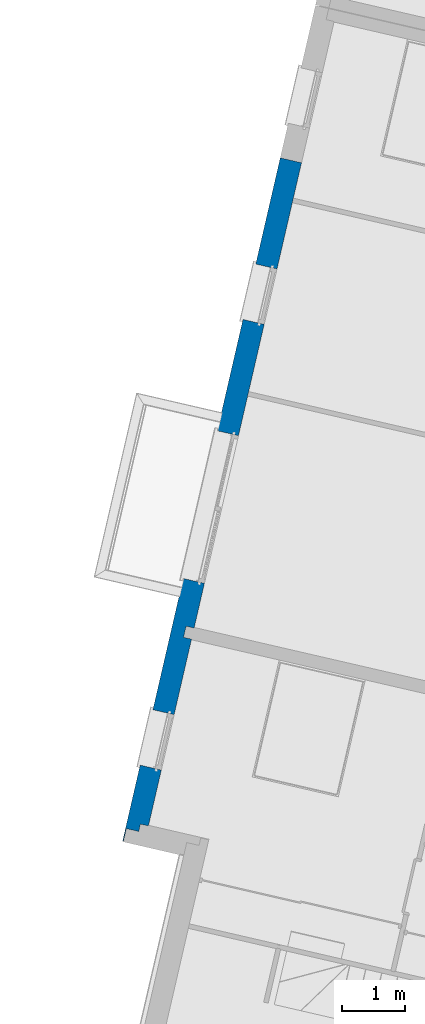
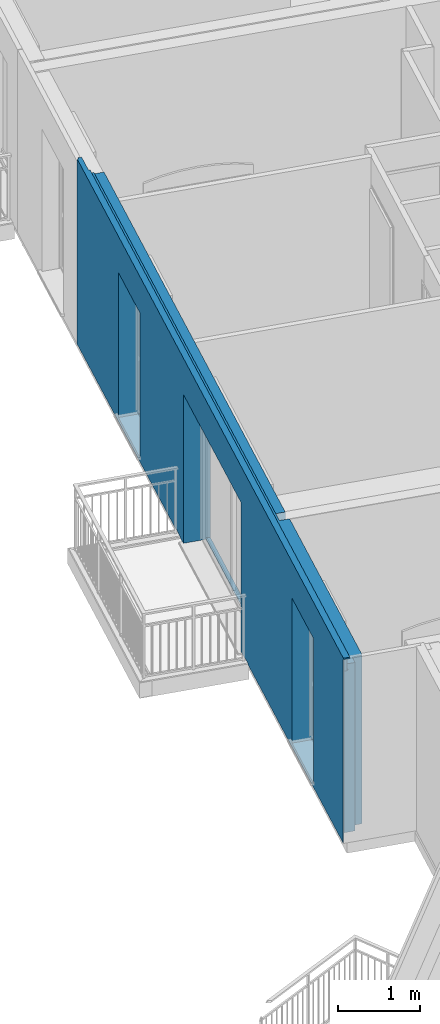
# One storey, part 7 of 62: 1 wall, 3 openings.
"""IFC2X3 building model written with IfcOpenShell, lengths in metres."""

from ifc_helpers import new_model, entity, si_unit, converted_unit, derived_unit, money_unit, direction, frame, origin_with_axes, place, context, subcontext, project, spatial, faceted_brep, material, material_list, type_object, element, save


model = new_model("IFC2X3")

# Units and contexts
model_context = context("Model", 3, precision=1e-05, world=origin_with_axes(), true_north=direction((0.0, 1.0)))
body_context = subcontext(model_context, "Body", "Model", "MODEL_VIEW")
ifc_project = project(units=[si_unit("LENGTHUNIT", "METRE"), si_unit("AREAUNIT", "SQUARE_METRE"), si_unit("VOLUMEUNIT", "CUBIC_METRE"), converted_unit("PLANEANGLEUNIT", "DEGREE", entity("IfcPlaneAngleMeasure", 0.0174532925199), si_unit("PLANEANGLEUNIT", "RADIAN"), dimensions=[0, 0, 0, 0, 0, 0, 0]), si_unit("SOLIDANGLEUNIT", "STERADIAN"), money_unit("EUR"), converted_unit("TIMEUNIT", "Year", entity("IfcTimeMeasure", 31556926.0), si_unit("TIMEUNIT", "SECOND"), dimensions=[0, 0, 1, 0, 0, 0, 0]), si_unit("MASSUNIT", "GRAM", prefix="KILO"), si_unit("THERMODYNAMICTEMPERATUREUNIT", "DEGREE_CELSIUS"), si_unit("LUMINOUSINTENSITYUNIT", "LUMEN"), si_unit("ENERGYUNIT", "JOULE", prefix="MEGA"), derived_unit("THERMALCONDUCTANCEUNIT", [(si_unit("POWERUNIT", "WATT"), 1), (si_unit("LENGTHUNIT", "METRE"), -1), (si_unit("THERMODYNAMICTEMPERATUREUNIT", "KELVIN"), -1)]), derived_unit("SPECIFICHEATCAPACITYUNIT", [(si_unit("ENERGYUNIT", "JOULE"), 1), (si_unit("MASSUNIT", "GRAM", prefix="KILO"), -1), (si_unit("THERMODYNAMICTEMPERATUREUNIT", "KELVIN"), -1)]), derived_unit("MASSDENSITYUNIT", [(si_unit("MASSUNIT", "GRAM", prefix="KILO"), 1), (si_unit("VOLUMEUNIT", "CUBIC_METRE"), -1)])], contexts=[model_context])

# Site, building, storey
site_placement = place(None, origin_with_axes())
site = spatial("IfcSite", under=ifc_project, at=site_placement, Name="Site", CompositionType="ELEMENT")
building_placement = place(site_placement, origin_with_axes())
building = spatial("IfcBuilding", under=site, at=building_placement, Name="Bâtiment", CompositionType="ELEMENT")
storey_placement = place(building_placement, frame((0.0, 0.0, 8.16), z_axis=(0.0, 0.0, 1.0), x_axis=(1.0, 0.0, 0.0)))
storey = spatial("IfcBuildingStorey", under=building, at=storey_placement, Name="R+3", CompositionType="ELEMENT", Elevation=8.16)

# Wall, openings
ifc_material_1 = material(Name="Finition int - Plaque de plâtre")
ifc_material_2 = material(Name="Isolation - Polystyrène extrudé")
ifc_material_3 = material(Name="Bloc ELITHERM")
ifc_material_4 = material(Name="Isolation - Polystyrène expansé")
ifc_material_5 = material(Name="Mortier")
ifc_material_6 = material(Name="Béton cellulaire")
ifc_material_7 = material(Name="Finition ext - Crépis")
ifc_material_list = material_list([ifc_material_1, ifc_material_2, ifc_material_3, ifc_material_4, ifc_material_5, ifc_material_6, ifc_material_7])
wall_type = type_object("IfcWallType", Name="Mur ALKERN + planelle 25 345 x 2760", PredefinedType="USERDEFINED")
wall_placement = place(storey_placement, frame((-17.4753928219, 1.5772865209, 0.0), z_axis=(0.0, 0.0, 1.0), x_axis=(-0.224876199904, -0.974387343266, 0.0)))
wall = element("IfcWall", 1, at=wall_placement, inside=storey, type_object=wall_type, material=ifc_material_list, Name="Mue bloc ALKERN isolé", ObjectType="SOLIDWALL", context=body_context, shape_type="Brep", body=[
    faceted_brep([(7.74379597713, 0.344999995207, 2.51), (10.7702631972, 0.344999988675, 2.51), (10.7702631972, 0.344999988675, 0.0), (7.74379597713, 0.344999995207, 0.0), (9.87121821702, 0.344999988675, 2.22), (9.87121821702, 0.344999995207, 2.4), (8.97121821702, 0.344999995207, 2.4), (8.97121821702, 0.344999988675, 2.22), (8.97121821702, 0.344999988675, 0.12), (9.87121821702, 0.344999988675, 0.12), (7.74379597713, 0.335000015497, 2.51), (10.7702631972, 0.335000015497, 2.51), (10.7702631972, 0.335000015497, 0.0), (7.74379597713, 0.335000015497, 0.0), (9.87121821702, 0.335000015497, 2.22), (9.87121821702, 0.335000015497, 2.4), (9.87121821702, 0.335000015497, 0.12), (8.97121821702, 0.335000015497, 2.4), (8.97121821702, 0.335000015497, 2.22), (8.97121821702, 0.335000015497, 0.12)], [[[0, 1, 2, 3], [4, 5, 6, 7, 8, 9]], [[10, 11, 1, 0]], [[1, 11, 12, 2]], [[3, 2, 12, 13]], [[0, 3, 13, 10]], [[14, 15, 5, 4, 9, 16]], [[6, 5, 15, 17]], [[7, 6, 17, 18, 19, 8]], [[8, 19, 16, 9]], [[13, 12, 11, 10], [15, 14, 16, 19, 18, 17]]]),
    faceted_brep([(0.0, 0.345000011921, 2.49), (7.56379597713, 0.344999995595, 2.49), (7.56379597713, 0.344999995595, 0.0), (0.0, 0.345000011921, 0.0), (6.83685662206, 0.345000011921, 2.22), (6.83685662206, 0.344999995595, 2.4), (4.43685662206, 0.344999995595, 2.4), (4.43685662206, 0.345000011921, 2.22), (4.43685662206, 0.345000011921, 0.02), (6.83685662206, 0.345000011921, 0.02), (2.62652738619, 0.344999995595, 2.22), (2.62652738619, 0.345000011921, 2.4), (1.72652738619, 0.345000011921, 2.4), (1.72652738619, 0.344999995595, 2.22), (1.72652738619, 0.344999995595, 0.12), (2.62652738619, 0.344999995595, 0.12), (0.0, 0.335000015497, 2.49), (7.56379597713, 0.335000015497, 2.49), (7.56379597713, 0.335000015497, 0.0), (0.0, 0.335000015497, 0.0), (6.83685662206, 0.335000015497, 2.22), (6.83685662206, 0.335000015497, 2.4), (6.83685662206, 0.335000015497, 0.02), (4.43685662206, 0.335000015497, 2.4), (4.43685662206, 0.335000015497, 2.22), (4.43685662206, 0.335000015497, 0.02), (2.62652738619, 0.335000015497, 2.22), (2.62652738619, 0.335000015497, 2.4), (2.62652738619, 0.335000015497, 0.12), (1.72652738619, 0.335000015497, 2.4), (1.72652738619, 0.335000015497, 2.22), (1.72652738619, 0.335000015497, 0.12)], [[[0, 1, 2, 3], [4, 5, 6, 7, 8, 9], [10, 11, 12, 13, 14, 15]], [[1, 0, 16, 17]], [[1, 17, 18, 2]], [[3, 2, 18, 19]], [[16, 0, 3, 19]], [[20, 21, 5, 4, 9, 22]], [[21, 23, 6, 5]], [[7, 6, 23, 24, 25, 8]], [[22, 9, 8, 25]], [[26, 27, 11, 10, 15, 28]], [[12, 11, 27, 29]], [[13, 12, 29, 30, 31, 14]], [[14, 31, 28, 15]], [[17, 16, 19, 18], [21, 20, 22, 25, 24, 23], [27, 26, 28, 31, 30, 29]]]),
    faceted_brep([(8.97121821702, 0.215000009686, 0.12), (8.97121821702, 0.215000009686, 0.06), (8.97121821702, 0.286, 0.06), (8.97121821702, 0.286, 0.12), (8.97121821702, 0.335000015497, 0.12), (8.97121821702, 0.335000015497, 2.22), (8.97121821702, 0.335000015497, 2.4), (8.97121821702, 0.215, 2.4), (8.97121821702, 0.215, 2.22), (10.7802631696, 0.215000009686, 2.51), (7.74379597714, 0.215000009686, 2.51), (7.74379597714, 0.215000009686, 0.0), (10.7802631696, 0.215000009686, 0.0), (9.87121821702, 0.215, 2.4), (9.87121821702, 0.215, 2.22), (9.87121821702, 0.215000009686, 0.12), (9.87121821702, 0.215000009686, 0.06), (9.87121821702, 0.286, 0.06), (9.87121821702, 0.286, 0.12), (9.87121821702, 0.335000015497, 0.12), (10.7802631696, 0.335000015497, 0.0), (7.74379597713, 0.335000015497, 0.0), (7.74379597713, 0.335000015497, 2.51), (10.7802631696, 0.335000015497, 2.51), (9.87121821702, 0.335000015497, 2.22), (9.87121821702, 0.335000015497, 2.4)], [[[0, 1, 2, 3, 4, 5, 6, 7, 8]], [[9, 10, 11, 12], [1, 0, 8, 7, 13, 14, 15, 16]], [[1, 16, 17, 2]], [[18, 3, 2, 17]], [[3, 18, 19, 4]], [[20, 21, 22, 23], [5, 4, 19, 24, 25, 6]], [[25, 13, 7, 6]], [[23, 22, 10, 9]], [[11, 10, 22, 21]], [[12, 11, 21, 20]], [[12, 20, 23, 9]], [[18, 17, 16, 15, 14, 13, 25, 24, 19]]]),
    faceted_brep([(1.72652738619, 0.214999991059, 0.12), (1.72652738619, 0.215, 0.06), (1.72652738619, 0.286, 0.06), (1.72652738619, 0.286, 0.12), (1.72652738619, 0.335000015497, 0.12), (1.72652738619, 0.335000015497, 2.22), (1.72652738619, 0.335000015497, 2.4), (1.72652738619, 0.215, 2.4), (1.72652738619, 0.215, 2.22), (4.43685662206, 0.215000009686, 0.0), (4.43685662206, 0.214999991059, 0.02), (4.43685662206, 0.215, 2.22), (4.43685662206, 0.215, 2.4), (6.83685662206, 0.215, 2.4), (6.83685662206, 0.215, 2.22), (6.83685662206, 0.214999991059, 0.02), (6.83685662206, 0.215000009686, 0.0), (7.56379597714, 0.215000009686, 0.0), (7.56379597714, 0.214999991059, 2.49), (0.0, 0.214999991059, 2.49), (0.0, 0.215000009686, 0.0), (2.62652738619, 0.215, 2.4), (2.62652738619, 0.215, 2.22), (2.62652738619, 0.214999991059, 0.12), (2.62652738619, 0.215, 0.06), (2.62652738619, 0.286, 0.06), (2.62652738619, 0.286, 0.12), (2.62652738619, 0.335000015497, 0.12), (0.0, 0.335000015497, 2.49), (7.56379597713, 0.335000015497, 2.49), (7.56379597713, 0.335000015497, 0.0), (0.0, 0.335000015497, 0.0), (4.43685662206, 0.335000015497, 2.22), (4.43685662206, 0.335000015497, 0.02), (6.83685662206, 0.335000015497, 0.02), (6.83685662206, 0.335000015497, 2.22), (6.83685662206, 0.335000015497, 2.4), (4.43685662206, 0.335000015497, 2.4), (2.62652738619, 0.335000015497, 2.22), (2.62652738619, 0.335000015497, 2.4), (4.43685662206, 0.286, 0.0), (4.43685662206, 0.286, 0.02), (6.83685662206, 0.286, 0.02), (6.83685662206, 0.286, 0.0)], [[[0, 1, 2, 3, 4, 5, 6, 7, 8]], [[9, 10, 11, 12, 13, 14, 15, 16, 17, 18, 19, 20], [1, 0, 8, 7, 21, 22, 23, 24]], [[1, 24, 25, 2]], [[26, 3, 2, 25]], [[3, 26, 27, 4]], [[28, 29, 30, 31], [32, 33, 34, 35, 36, 37], [5, 4, 27, 38, 39, 6]], [[39, 21, 7, 6]], [[37, 12, 11, 10, 9, 40, 41, 33, 32]], [[36, 13, 12, 37]], [[36, 35, 34, 42, 43, 16, 15, 14, 13]], [[30, 17, 16, 43, 40, 9, 20, 31]], [[29, 18, 17, 30]], [[29, 28, 19, 18]], [[19, 28, 31, 20]], [[26, 25, 24, 23, 22, 21, 39, 38, 27]], [[41, 42, 34, 33]], [[42, 41, 40, 43]]]),
    faceted_brep([(8.97121821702, 0.015, 0.12), (8.97121821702, 0.015, 0.06), (8.97121821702, 0.214999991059, 0.06), (8.97121821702, 0.214999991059, 0.12), (8.97121821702, 0.214999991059, 2.22), (8.97121821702, 0.015, 2.22), (0.0, 0.015, 2.50999999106), (0.0, 0.015, 0.0), (4.43685662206, 0.015, 0.0), (4.43685662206, 0.015, 0.02), (4.43685662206, 0.015, 2.22), (6.83685662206, 0.015, 2.22), (6.83685662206, 0.015, 0.02), (6.83685662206, 0.015, 0.0), (10.900263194, 0.015, 0.0), (10.900263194, 0.015, 2.50999999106), (1.72652738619, 0.015, 0.06), (1.72652738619, 0.015, 0.12), (1.72652738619, 0.015, 2.22), (2.62652738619, 0.015, 2.22), (2.62652738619, 0.015, 0.12), (2.62652738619, 0.015, 0.06), (9.87121821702, 0.015, 2.22), (9.87121821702, 0.015, 0.12), (9.87121821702, 0.015, 0.06), (9.87121821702, 0.214999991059, 0.06), (6.83685662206, 0.214999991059, 2.22), (4.43685662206, 0.214999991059, 2.22), (4.43685662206, 0.214999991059, 0.02), (4.43685662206, 0.214999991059, 0.0), (0.0, 0.214999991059, 0.0), (0.0, 0.214999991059, 2.51000000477), (10.900263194, 0.214999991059, 2.50999999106), (10.900263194, 0.214999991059, 0.0), (6.83685662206, 0.214999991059, 0.0), (6.83685662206, 0.214999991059, 0.02), (2.62652738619, 0.214999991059, 0.06), (2.62652738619, 0.214999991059, 0.12), (2.62652738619, 0.214999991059, 2.22), (1.72652738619, 0.214999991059, 2.22), (1.72652738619, 0.214999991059, 0.12), (1.72652738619, 0.214999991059, 0.06), (9.87121821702, 0.214999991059, 0.12), (9.87121821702, 0.214999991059, 2.22), (0.0, 0.0830000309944, 2.51000000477), (10.900263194, 0.0829999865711, 2.50999999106)], [[[0, 1, 2, 3, 4, 5]], [[6, 7, 8, 9, 10, 11, 12, 13, 14, 15], [16, 17, 18, 19, 20, 21], [1, 0, 5, 22, 23, 24]], [[25, 2, 1, 24]], [[26, 27, 28, 29, 30, 31, 32, 33, 34, 35], [36, 37, 38, 39, 40, 41], [25, 42, 43, 4, 3, 2]], [[43, 22, 5, 4]], [[31, 30, 7, 6, 44]], [[29, 8, 7, 30]], [[9, 8, 29, 28, 27, 10]], [[26, 11, 10, 27]], [[35, 34, 13, 12, 11, 26]], [[13, 34, 33, 14]], [[45, 15, 14, 33, 32]], [[44, 6, 15, 45]], [[17, 16, 41, 40, 39, 18]], [[18, 39, 38, 19]], [[37, 36, 21, 20, 19, 38]], [[16, 21, 36, 41]], [[42, 25, 24, 23, 22, 43]], [[31, 44, 45, 32]]]),
    faceted_brep([(7.74379610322, 0.0830000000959, 2.74), (0.276999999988, 0.0830000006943, 2.74), (0.276999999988, 0.0830000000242, 2.76), (11.1152631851, 0.0830000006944, 2.75999999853), (11.1152631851, 0.0830000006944, 2.74), (11.0322631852, 0.0830000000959, 2.74), (0.276999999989, 0.0630000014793, 2.73999999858), (11.1152631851, 0.063, 2.74), (0.276999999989, 0.063, 2.76), (11.1152631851, 0.063, 2.75999999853)], [[[0, 1, 2, 3, 4, 5]], [[6, 1, 0, 5, 4, 7]], [[1, 6, 8, 2]], [[3, 2, 8, 9]], [[9, 7, 4, 3]], [[6, 7, 9, 8]]]),
    faceted_brep([(11.0322631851, 0.015, 2.52), (11.0322631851, 0.0830000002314, 2.52), (0.0, 0.0830000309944, 2.51999998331), (0.0, 0.015, 2.52), (11.0322631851, 0.0830000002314, 2.51), (11.0322631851, 0.015, 2.51), (0.0, 0.0830000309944, 2.51000000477), (0.0, 0.015, 2.51)], [[[0, 1, 2, 3]], [[4, 1, 0, 5]], [[1, 4, 6, 2]], [[7, 3, 2, 6]], [[5, 0, 3, 7]], [[4, 5, 7, 6]]]),
    faceted_brep([(11.0522631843, 0.0630000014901, 2.74), (11.0522631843, 0.0630000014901, 2.5200000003), (0.0, 0.0630000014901, 2.52), (0.0, 0.0630000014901, 2.73999999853), (-0.0150000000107, 0.0630000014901, 2.74), (-0.0150000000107, 0.0630000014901, 2.76), (11.1152631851, 0.0630000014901, 2.75999999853), (11.1152631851, 0.0630000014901, 2.74), (11.1002631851, 0.0630000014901, 2.74), (11.0522631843, 0.015, 2.74), (11.0522631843, 0.015, 2.5200000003), (0.0, 0.015, 2.52), (0.0, 0.015, 2.73999999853), (-0.0150000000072, 0.015, 2.74), (-0.0150000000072, 0.015, 2.76), (11.1152631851, 0.015, 2.75999999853), (11.1152631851, 0.015, 2.74), (11.1002631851, 0.015, 2.74)], [[[0, 1, 2, 3, 4, 5, 6, 7, 8]], [[1, 0, 9, 10]], [[1, 10, 11, 2]], [[3, 2, 11, 12]], [[12, 13, 4, 3]], [[13, 14, 5, 4]], [[6, 5, 14, 15]], [[16, 7, 6, 15]], [[17, 8, 7, 16]], [[0, 8, 17, 9]], [[9, 17, 16, 15, 14, 13, 12, 11, 10]]]),
    faceted_brep([(8.97121821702, 2.38417996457e-09, 0.12), (8.97121821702, 0.0, 0.06), (8.97121821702, 0.0149999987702, 0.06), (8.97121821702, 0.01499999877, 0.12), (8.97121821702, 0.01499999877, 2.22), (8.97121821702, 2.38417996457e-09, 2.22), (11.1002631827, 0.0, 2.74), (11.1152631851, 1.09378817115e-09, 2.74), (11.1152631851, 1.09378817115e-09, 2.75999999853), (0.00999999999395, 0.0, 2.76), (0.00999999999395, 0.0, 2.74), (0.0, 1.09378461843e-09, 2.74), (0.0, 2.38418351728e-09, 0.0), (4.13685662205, 1.49683643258e-09, 0.0), (4.13685662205, 0.0, 0.01), (4.14683714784, 0.0, 0.0193762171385), (4.28687609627, 0.0, 0.0106237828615), (4.29685662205, 1.46252077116e-09, 0.0), (4.43685662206, 1.43248968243e-09, 0.0), (4.43685662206, 0.0, 0.02), (4.43685662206, 0.0, 2.22), (6.83685662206, 0.0, 2.22), (6.83685662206, 0.0, 0.02), (6.83685662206, 9.17697917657e-10, 0.0), (6.97685662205, 8.8766682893e-10, 0.0), (6.98683714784, 0.0, 0.0106237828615), (7.12687609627, 0.0, 0.0193762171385), (7.13685662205, 0.0, 0.01), (7.13685662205, 8.53351167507e-10, 0.0), (11.1002631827, 0.0, 0.0), (1.72652738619, 0.0, 0.06), (1.72652738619, 1.43248968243e-09, 0.12), (1.72652738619, 1.43248968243e-09, 2.22), (2.62652738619, 1.43249323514e-09, 2.22), (2.62652738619, 1.43249323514e-09, 0.12), (2.62652738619, 0.0, 0.06), (9.87121821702, 2.38418351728e-09, 2.22), (9.87121821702, 2.38418351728e-09, 0.12), (9.87121821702, 0.0, 0.06), (9.87121821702, 0.0149999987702, 0.06), (11.1152631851, 0.0150000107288, 2.74), (11.1002631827, 0.0150000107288, 2.74), (11.1002631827, 0.0150000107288, 0.0), (7.13685662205, 0.0149999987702, 0.0), (7.13685662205, 0.0149999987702, 0.01), (7.12687609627, 0.0149999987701, 0.0193762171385), (6.98683714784, 0.01499999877, 0.0106237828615), (6.97685662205, 0.01499999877, 0.0), (6.83685662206, 0.0149999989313, 0.0), (6.83685662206, 0.0150000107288, 0.02), (6.83685662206, 0.0150000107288, 2.22), (4.43685662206, 0.0150000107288, 2.22), (4.43685662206, 0.0150000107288, 0.02), (4.43685662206, 0.015000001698, 0.0), (4.29685662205, 0.0150000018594, 0.0), (4.28687609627, 0.0150000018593, 0.0106237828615), (4.14683714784, 0.0150000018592, 0.0193762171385), (4.13685662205, 0.0150000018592, 0.01), (4.13685662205, 0.0150000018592, 0.0), (0.0, 0.0150000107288, 0.0), (0.0, 0.0150000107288, 2.74), (0.00999999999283, 0.0150000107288, 2.74), (0.00999999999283, 0.0150000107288, 2.76), (11.1152631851, 0.0150000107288, 2.75999999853), (2.62652738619, 0.0150000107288, 0.06), (2.62652738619, 0.0150000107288, 0.12), (2.62652738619, 0.0150000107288, 2.22), (1.72652738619, 0.0150000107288, 2.22), (1.72652738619, 0.0150000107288, 0.12), (1.72652738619, 0.0150000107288, 0.06), (9.87121821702, 0.01499999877, 0.12), (9.87121821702, 0.01499999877, 2.22)], [[[0, 1, 2, 3, 4, 5]], [[6, 7, 8, 9, 10, 11, 12, 13, 14, 15, 16, 17, 18, 19, 20, 21, 22, 23, 24, 25, 26, 27, 28, 29], [30, 31, 32, 33, 34, 35], [1, 0, 5, 36, 37, 38]], [[39, 2, 1, 38]], [[40, 41, 42, 43, 44, 45, 46, 47, 48, 49, 50, 51, 52, 53, 54, 55, 56, 57, 58, 59, 60, 61, 62, 63], [64, 65, 66, 67, 68, 69], [39, 70, 71, 4, 3, 2]], [[71, 36, 5, 4]], [[40, 7, 6, 41]], [[40, 63, 8, 7]], [[9, 8, 63, 62]], [[62, 61, 10, 9]], [[60, 11, 10, 61]], [[60, 59, 12, 11]], [[13, 12, 59, 58]], [[57, 14, 13, 58]], [[56, 15, 14, 57]], [[55, 16, 15, 56]], [[54, 17, 16, 55]], [[53, 18, 17, 54]], [[19, 18, 53, 52, 51, 20]], [[50, 21, 20, 51]], [[49, 48, 23, 22, 21, 50]], [[23, 48, 47, 24]], [[47, 46, 25, 24]], [[45, 26, 25, 46]], [[44, 27, 26, 45]], [[43, 28, 27, 44]], [[43, 42, 29, 28]], [[6, 29, 42, 41]], [[31, 30, 69, 68, 67, 32]], [[32, 67, 66, 33]], [[65, 64, 35, 34, 33, 66]], [[30, 35, 64, 69]], [[70, 39, 38, 37, 36, 71]]]),
])
opening_1_placement = place(wall_placement, frame((5.63685662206, 0.0, 0.02), z_axis=(0.0, 0.0, 1.0), x_axis=(1.0, 0.0, 0.0)))
element("IfcOpeningElement", 2, at=opening_1_placement, cuts=wall, Name="MEN 110", context=body_context, shape_type="Brep", body=[
    faceted_brep([(-1.2, 0.83499998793, 0.0), (1.2, 0.83499998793, 0.0), (1.2, 0.245, 0.0), (-1.2, 0.245, 0.0), (-1.2, 0.83499998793, 2.2), (1.2, 0.83499998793, 2.2), (1.2, 0.245, 2.2), (-1.2, 0.245, 2.2)], [[[0, 1, 2, 3]], [[0, 4, 5, 1]], [[1, 5, 6, 2]], [[3, 2, 6, 7]], [[4, 0, 3, 7]], [[5, 4, 7, 6]]]),
    faceted_brep([(-1.2, -0.34499998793, 0.0), (-1.2, -0.34499998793, 2.2), (-1.2, 0.245, 2.2), (-1.2, 0.245, 0.0), (1.2, -0.34499998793, 0.0), (1.2, -0.34499998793, 2.2), (1.2, 0.245, 2.2), (1.2, 0.245, 0.0)], [[[0, 1, 2, 3]], [[0, 4, 5, 1]], [[1, 5, 6, 2]], [[3, 2, 6, 7]], [[4, 0, 3, 7]], [[5, 4, 7, 6]]]),
    faceted_brep([(-1.2, -0.34499998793, 0.0), (-1.2, -0.34499998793, 2.2), (-1.2, 0.245, 2.2), (-1.2, 0.245, 0.0), (1.2, -0.34499998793, 0.0), (1.2, -0.34499998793, 2.2), (1.2, 0.245, 2.2), (1.2, 0.245, 0.0)], [[[0, 1, 2, 3]], [[0, 4, 5, 1]], [[1, 5, 6, 2]], [[3, 2, 6, 7]], [[4, 0, 3, 7]], [[5, 4, 7, 6]]]),
    faceted_brep([(-1.2, 0.80499998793, 2.2), (1.2, 0.80499998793, 2.2), (1.2, 0.215, 2.2), (-1.2, 0.215, 2.2), (-1.2, 0.80499998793, 2.38), (1.2, 0.80499998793, 2.38), (1.2, 0.215, 2.38), (-1.2, 0.215, 2.38)], [[[0, 1, 2, 3]], [[0, 4, 5, 1]], [[1, 5, 6, 2]], [[3, 2, 6, 7]], [[4, 0, 3, 7]], [[5, 4, 7, 6]]]),
    faceted_brep([(-1.2, -0.30399998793, 0.0), (1.2, -0.30399998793, 0.0), (1.2, 0.286, 0.0), (-1.2, 0.286, 0.0), (-1.2, -0.30399998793, -0.06), (1.2, -0.30399998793, -0.06), (1.2, 0.286, -0.06), (-1.2, 0.286, -0.06)], [[[0, 1, 2, 3]], [[0, 4, 5, 1]], [[1, 5, 6, 2]], [[3, 2, 6, 7]], [[4, 0, 3, 7]], [[5, 4, 7, 6]]]),
])
opening_2_placement = place(wall_placement, frame((2.17652738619, 0.0, 0.12), z_axis=(0.0, 0.0, 1.0), x_axis=(1.0, 0.0, 0.0)))
element("IfcOpeningElement", 3, at=opening_2_placement, cuts=wall, Name="MEN 109", context=body_context, shape_type="Brep", body=[
    faceted_brep([(0.45, 0.245, 0.0), (-0.45, 0.245, 0.0), (-0.45, 0.83499998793, 0.0), (0.45, 0.83499998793, 0.0), (0.45, 0.245, 2.1), (-0.45, 0.245, 2.1), (-0.45, 0.83499998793, 2.1), (0.45, 0.83499998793, 2.1)], [[[0, 1, 2, 3]], [[0, 4, 5, 1]], [[1, 5, 6, 2]], [[3, 2, 6, 7]], [[4, 0, 3, 7]], [[5, 4, 7, 6]]]),
    faceted_brep([(0.45, 0.245, 0.0), (0.45, 0.245, 2.1), (0.45, -0.34499998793, 2.1), (0.45, -0.34499998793, 0.0), (-0.45, 0.245, 0.0), (-0.45, 0.245, 2.1), (-0.45, -0.34499998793, 2.1), (-0.45, -0.34499998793, 0.0)], [[[0, 1, 2, 3]], [[0, 4, 5, 1]], [[1, 5, 6, 2]], [[3, 2, 6, 7]], [[4, 0, 3, 7]], [[5, 4, 7, 6]]]),
    faceted_brep([(0.45, 0.245, 0.0), (0.45, 0.245, 2.1), (0.45, -0.34499998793, 2.1), (0.45, -0.34499998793, 0.0), (-0.45, 0.245, 0.0), (-0.45, 0.245, 2.1), (-0.45, -0.34499998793, 2.1), (-0.45, -0.34499998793, 0.0)], [[[0, 1, 2, 3]], [[0, 4, 5, 1]], [[1, 5, 6, 2]], [[3, 2, 6, 7]], [[4, 0, 3, 7]], [[5, 4, 7, 6]]]),
    faceted_brep([(0.45, 0.215, 2.1), (-0.45, 0.215, 2.1), (-0.45, 0.80499998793, 2.1), (0.45, 0.80499998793, 2.1), (0.45, 0.215, 2.28), (-0.45, 0.215, 2.28), (-0.45, 0.80499998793, 2.28), (0.45, 0.80499998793, 2.28)], [[[0, 1, 2, 3]], [[0, 4, 5, 1]], [[1, 5, 6, 2]], [[3, 2, 6, 7]], [[4, 0, 3, 7]], [[5, 4, 7, 6]]]),
    faceted_brep([(0.45, 0.286, 0.0), (-0.45, 0.286, 0.0), (-0.45, -0.30399998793, 0.0), (0.45, -0.30399998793, 0.0), (0.45, 0.286, -0.06), (-0.45, 0.286, -0.06), (-0.45, -0.30399998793, -0.06), (0.45, -0.30399998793, -0.06)], [[[0, 1, 2, 3]], [[0, 4, 5, 1]], [[1, 5, 6, 2]], [[3, 2, 6, 7]], [[4, 0, 3, 7]], [[5, 4, 7, 6]]]),
])
opening_3_placement = place(wall_placement, frame((9.42121821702, 0.0, 0.12), z_axis=(0.0, 0.0, 1.0), x_axis=(1.0, 0.0, 0.0)))
element("IfcOpeningElement", 4, at=opening_3_placement, cuts=wall, Name="MEN 111", context=body_context, shape_type="Brep", body=[
    faceted_brep([(-0.45, 0.83499998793, 0.0), (0.45, 0.83499998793, 0.0), (0.45, 0.245, 0.0), (-0.45, 0.245, 0.0), (-0.45, 0.83499998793, 2.1), (0.45, 0.83499998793, 2.1), (0.45, 0.245, 2.1), (-0.45, 0.245, 2.1)], [[[0, 1, 2, 3]], [[0, 4, 5, 1]], [[1, 5, 6, 2]], [[3, 2, 6, 7]], [[4, 0, 3, 7]], [[5, 4, 7, 6]]]),
    faceted_brep([(-0.45, -0.34499998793, 0.0), (-0.45, -0.34499998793, 2.1), (-0.45, 0.245, 2.1), (-0.45, 0.245, 0.0), (0.45, -0.34499998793, 0.0), (0.45, -0.34499998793, 2.1), (0.45, 0.245, 2.1), (0.45, 0.245, 0.0)], [[[0, 1, 2, 3]], [[0, 4, 5, 1]], [[1, 5, 6, 2]], [[3, 2, 6, 7]], [[4, 0, 3, 7]], [[5, 4, 7, 6]]]),
    faceted_brep([(-0.45, -0.34499998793, 0.0), (-0.45, -0.34499998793, 2.1), (-0.45, 0.245, 2.1), (-0.45, 0.245, 0.0), (0.45, -0.34499998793, 0.0), (0.45, -0.34499998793, 2.1), (0.45, 0.245, 2.1), (0.45, 0.245, 0.0)], [[[0, 1, 2, 3]], [[0, 4, 5, 1]], [[1, 5, 6, 2]], [[3, 2, 6, 7]], [[4, 0, 3, 7]], [[5, 4, 7, 6]]]),
    faceted_brep([(-0.45, 0.80499998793, 2.1), (0.45, 0.80499998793, 2.1), (0.45, 0.215, 2.1), (-0.45, 0.215, 2.1), (-0.45, 0.80499998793, 2.28), (0.45, 0.80499998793, 2.28), (0.45, 0.215, 2.28), (-0.45, 0.215, 2.28)], [[[0, 1, 2, 3]], [[0, 4, 5, 1]], [[1, 5, 6, 2]], [[3, 2, 6, 7]], [[4, 0, 3, 7]], [[5, 4, 7, 6]]]),
    faceted_brep([(-0.45, -0.30399998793, 0.0), (0.45, -0.30399998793, 0.0), (0.45, 0.286, 0.0), (-0.45, 0.286, 0.0), (-0.45, -0.30399998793, -0.06), (0.45, -0.30399998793, -0.06), (0.45, 0.286, -0.06), (-0.45, 0.286, -0.06)], [[[0, 1, 2, 3]], [[0, 4, 5, 1]], [[1, 5, 6, 2]], [[3, 2, 6, 7]], [[4, 0, 3, 7]], [[5, 4, 7, 6]]]),
])

save(model, "model.ifc")
